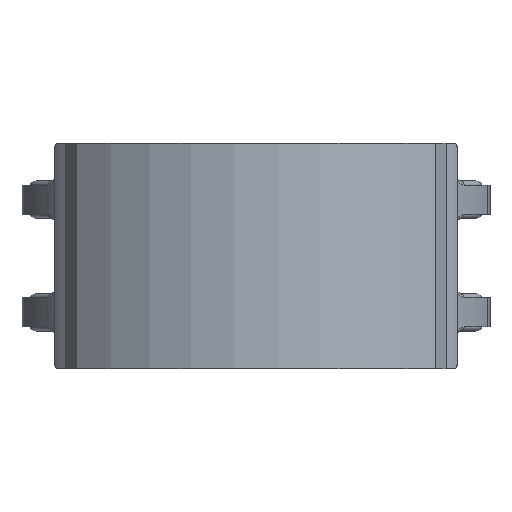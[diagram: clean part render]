
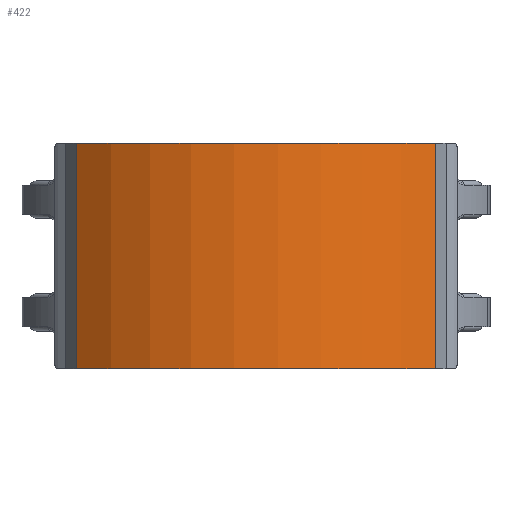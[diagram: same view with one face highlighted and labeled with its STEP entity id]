
A CAD part, front view. The second image highlights one B-rep face of the part: STEP entity #422.
In plain terms, the highlighted cylindrical face has radius 65 mm (diameter 130 mm), a partial arc.
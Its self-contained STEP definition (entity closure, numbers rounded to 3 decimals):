
#326=CARTESIAN_POINT('',(45.882,0.2,-27.0));
#327=VERTEX_POINT('',#326);
#328=CARTESIAN_POINT('',(-13.958,62.179,-27.0));
#329=VERTEX_POINT('',#328);
#330=CARTESIAN_POINT('',(50.981,65.0,-27.0));
#331=DIRECTION('',(0.0,0.0,-1.0));
#332=DIRECTION('',(1.0,0.0,0.0));
#333=AXIS2_PLACEMENT_3D('',#330,#331,#332);
#334=CIRCLE('',#333,65.0);
#335=EDGE_CURVE('',#327,#329,#334,.T.);
#367=CARTESIAN_POINT('',(-13.958,62.179,27.0));
#368=VERTEX_POINT('',#367);
#375=CARTESIAN_POINT('',(45.882,0.2,27.0));
#376=VERTEX_POINT('',#375);
#377=CARTESIAN_POINT('',(50.981,65.0,27.0));
#378=DIRECTION('',(0.0,0.0,-1.0));
#379=DIRECTION('',(1.0,0.0,0.0));
#380=AXIS2_PLACEMENT_3D('',#377,#378,#379);
#381=CIRCLE('',#380,65.0);
#382=EDGE_CURVE('',#376,#368,#381,.T.);
#401=CARTESIAN_POINT('',(50.981,65.0,-152.605));
#402=DIRECTION('',(0.0,0.0,1.0));
#403=DIRECTION('',(1.0,0.0,0.0));
#404=AXIS2_PLACEMENT_3D('',#401,#402,#403);
#405=CYLINDRICAL_SURFACE('',#404,65.0);
#406=ORIENTED_EDGE('',*,*,#382,.T.);
#407=CARTESIAN_POINT('',(-13.958,62.179,27.0));
#408=DIRECTION('',(0.0,0.0,-1.0));
#409=VECTOR('',#408,54.0);
#410=LINE('',#407,#409);
#411=EDGE_CURVE('',#368,#329,#410,.T.);
#412=ORIENTED_EDGE('',*,*,#411,.T.);
#413=ORIENTED_EDGE('',*,*,#335,.F.);
#414=CARTESIAN_POINT('',(45.882,0.2,-27.0));
#415=DIRECTION('',(0.0,0.0,1.0));
#416=VECTOR('',#415,54.0);
#417=LINE('',#414,#416);
#418=EDGE_CURVE('',#327,#376,#417,.T.);
#419=ORIENTED_EDGE('',*,*,#418,.T.);
#420=EDGE_LOOP('',(#406,#412,#413,#419));
#421=FACE_OUTER_BOUND('',#420,.T.);
#422=ADVANCED_FACE('',(#421),#405,.T.);
